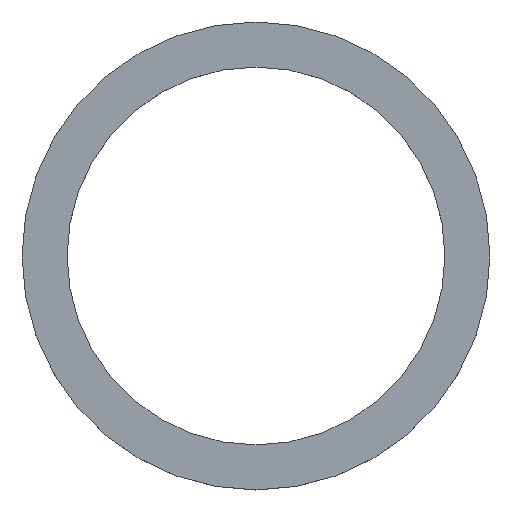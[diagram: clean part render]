
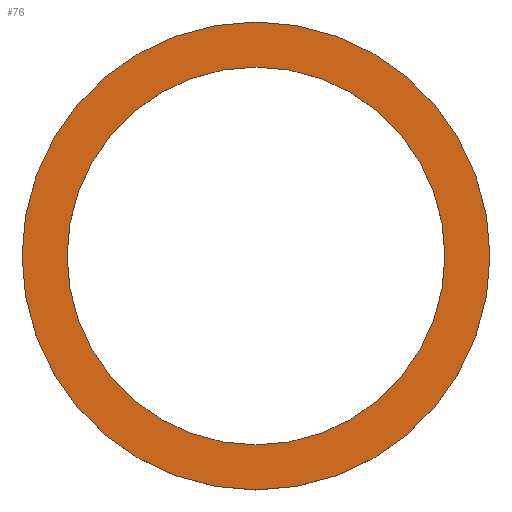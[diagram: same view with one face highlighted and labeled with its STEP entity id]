
A CAD part, top view. The second image highlights one B-rep face of the part: STEP entity #76.
In plain terms, the highlighted planar face has unit normal (0, 0, 1).
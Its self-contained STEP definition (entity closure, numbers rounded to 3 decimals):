
#28=FACE_BOUND('',#40,.T.);
#30=PLANE('',#101);
#34=FACE_OUTER_BOUND('',#39,.T.);
#39=EDGE_LOOP('',(#69));
#40=EDGE_LOOP('',(#70));
#46=CIRCLE('',#96,6.5);
#48=CIRCLE('',#99,8.05);
#50=VERTEX_POINT('',#144);
#52=VERTEX_POINT('',#150);
#55=EDGE_CURVE('',#50,#50,#46,.F.);
#58=EDGE_CURVE('',#52,#52,#48,.F.);
#69=ORIENTED_EDGE('',*,*,#58,.F.);
#70=ORIENTED_EDGE('',*,*,#55,.F.);
#76=ADVANCED_FACE('',(#34,#28),#30,.F.);
#96=AXIS2_PLACEMENT_3D('',#146,#118,#119);
#99=AXIS2_PLACEMENT_3D('',#152,#125,#126);
#101=AXIS2_PLACEMENT_3D('',#154,#129,#130);
#118=DIRECTION('center_axis',(0.,0.,-1.));
#119=DIRECTION('ref_axis',(1.,0.,0.));
#125=DIRECTION('center_axis',(0.,0.,1.));
#126=DIRECTION('ref_axis',(1.,0.,0.));
#129=DIRECTION('center_axis',(0.,0.,-1.));
#130=DIRECTION('ref_axis',(1.,0.,0.));
#144=CARTESIAN_POINT('',(-26.5,-19.3,39.65));
#146=CARTESIAN_POINT('Origin',(-20.,-19.3,39.65));
#150=CARTESIAN_POINT('',(-28.05,-19.3,39.65));
#152=CARTESIAN_POINT('Origin',(-20.,-19.3,39.65));
#154=CARTESIAN_POINT('Origin',(-20.,-19.3,39.65));
